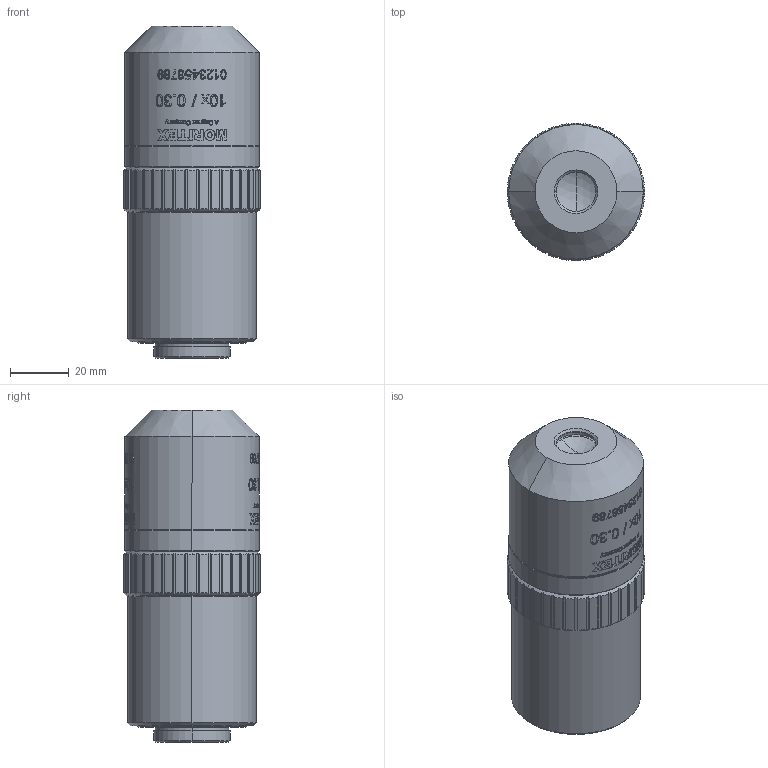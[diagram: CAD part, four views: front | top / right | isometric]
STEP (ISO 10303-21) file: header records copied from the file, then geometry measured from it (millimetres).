
FILE_DESCRIPTION (( 'STEP AP214' ), '1' );
FILE_NAME ('MOL10-03012HR-38MA.STEP', '2026-02-27T04:26:05', ( '' ), ( '' ), 'SwSTEP 2.0', 'SolidWorks 2025', '' );
FILE_SCHEMA (( 'AUTOMOTIVE_DESIGN' ));
Length unit declared in the file: millimetre
Products named in the file (1): MOL10-03012HR-38MA
Bounding box: 47 x 46.99 x 113.5 mm (x, y, z)
Volume: 168990.3 mm3; surface area: 19844.8 mm2
Topology: 1 solids, 2 shells, 1271 faces, 3390 edges, 2248 vertices
Faces by surface type: bspline 608, plane 441, cylinder 182, cone 36, sphere 4
Entity records: 107739 total; most frequent: CARTESIAN_POINT 81568, ORIENTED_EDGE 6780, EDGE_CURVE 3390, DIRECTION 3104, VERTEX_POINT 2248, B_SPLINE_CURVE_WITH_KNOTS 2162, EDGE_LOOP 1398, ADVANCED_FACE 1271
